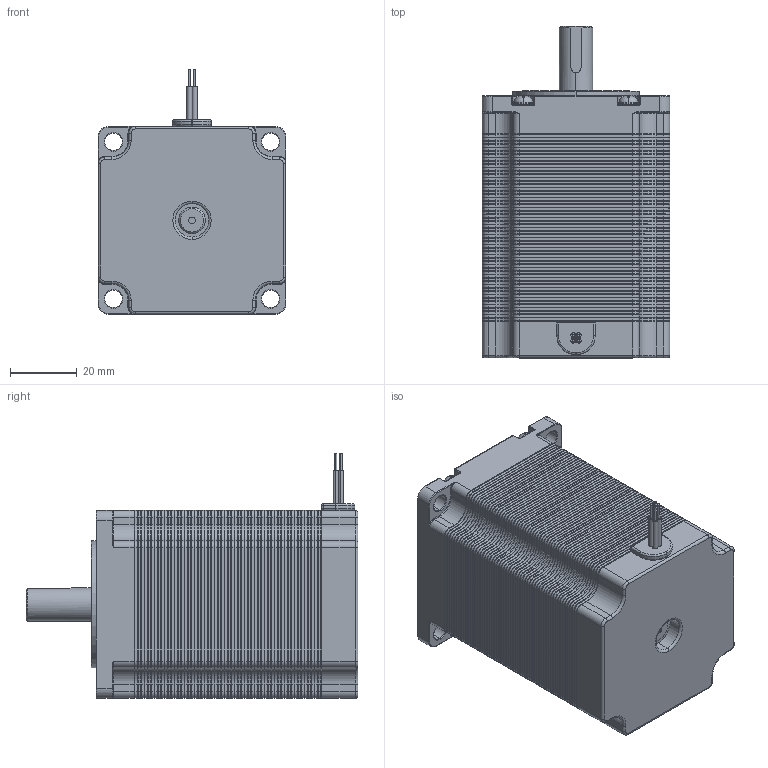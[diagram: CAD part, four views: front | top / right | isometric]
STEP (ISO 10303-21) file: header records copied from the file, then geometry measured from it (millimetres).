
FILE_DESCRIPTION (( 'STEP AP214' ), '1' );
FILE_NAME ('Nema 23 Stepper Motor length 80mm_10mm_key.STEP', '2020-11-11T14:31:13', ( 'Moofasta' ), ( '' ), 'SwSTEP 2.0', 'SolidWorks 2020', '' );
FILE_SCHEMA (( 'AUTOMOTIVE_DESIGN' ));
Length unit declared in the file: millimetre
Products named in the file (1): Nema 23 Stepper Motor length 80mm_10mm_key
Bounding box: 56.3 x 99.5 x 73.3 mm (x, y, z)
Volume: 227567.1 mm3; surface area: 348683.3 mm2
Topology: 72 solids, 72 shells, 4622 faces, 10509 edges, 6017 vertices
Faces by surface type: plane 2301, cone 1372, cylinder 835, torus 94, sphere 12, bspline 8
Entity records: 174104 total; most frequent: DIRECTION 22830, CARTESIAN_POINT 21609, ORIENTED_EDGE 20978, EDGE_CURVE 10489, AXIS2_PLACEMENT_3D 7802, VECTOR 7226, LINE 7226, VERTEX_POINT 6017
